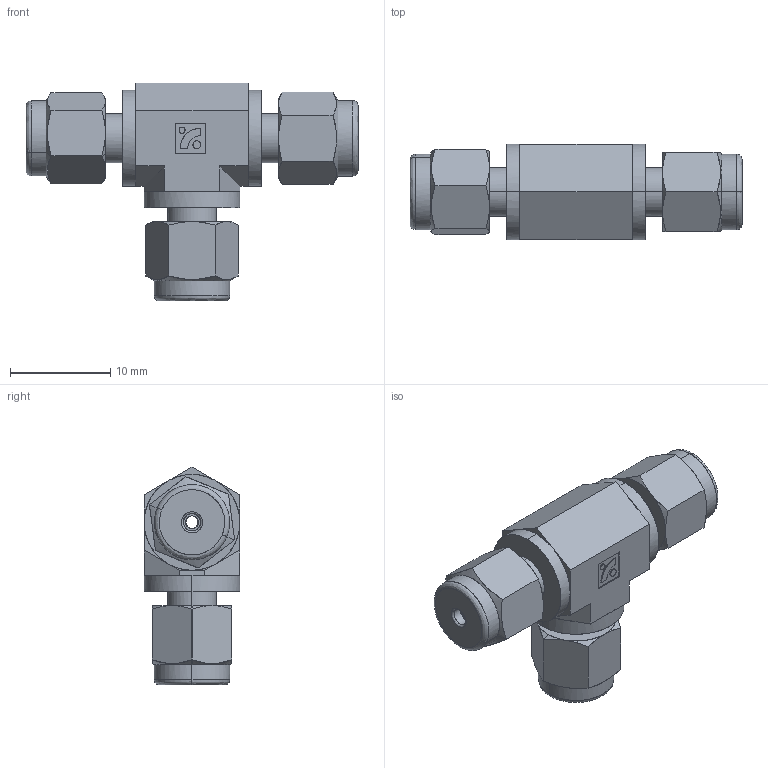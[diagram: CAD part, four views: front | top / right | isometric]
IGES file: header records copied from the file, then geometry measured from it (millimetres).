
Start section: Comment
Global section: file name: SUT-1.igs; native system:  By UGS Corp.; preprocessor: XPlus GENERIC/IGES 3.0; author: Author; organization: Title; date: 20100114.110507; units: millimetre
Bounding box: 33.04 x 9.53 x 21.69 mm (x, y, z)
Surface area: 2445.9 mm2 (no closed solid volume)
Topology: 0 solids, 0 shells, 253 faces, 1635 edges, 1626 vertices
Faces by surface type: bspline 253
